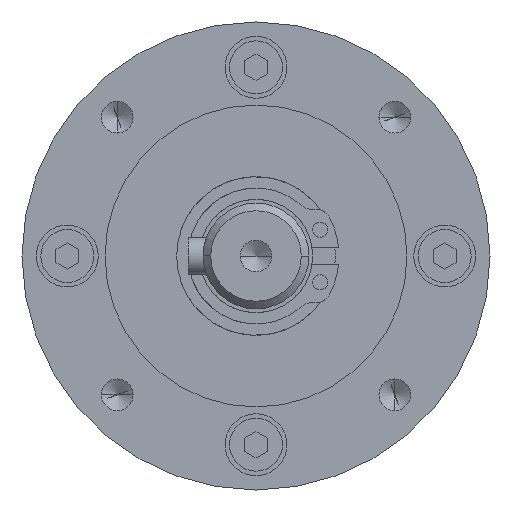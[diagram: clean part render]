
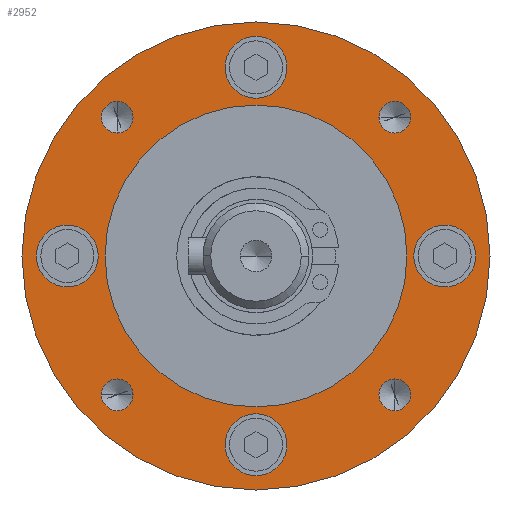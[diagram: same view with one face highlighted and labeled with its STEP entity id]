
A CAD part, left-side view. The second image highlights one B-rep face of the part: STEP entity #2952.
In plain terms, the highlighted planar face has unit normal (-1, 0, 0).
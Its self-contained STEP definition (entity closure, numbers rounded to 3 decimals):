
#282=CARTESIAN_POINT('',(-104.2,0.,0.));
#283=DIRECTION('',(1.,0.,0.));
#284=DIRECTION('',(0.,1.,0.));
#285=AXIS2_PLACEMENT_3D('',#282,#283,#284);
#290=CARTESIAN_POINT('',(-104.2,0.,0.));
#291=DIRECTION('',(1.,0.,0.));
#292=DIRECTION('',(0.,-1.,0.));
#293=AXIS2_PLACEMENT_3D('',#290,#291,#292);
#298=CARTESIAN_POINT('',(-104.2,0.,0.));
#299=DIRECTION('',(-1.,0.,0.));
#300=DIRECTION('',(0.,1.,0.));
#301=AXIS2_PLACEMENT_3D('',#298,#299,#300);
#306=CARTESIAN_POINT('',(-104.2,0.,0.));
#307=DIRECTION('',(-1.,0.,0.));
#308=DIRECTION('',(0.,-1.,0.));
#309=AXIS2_PLACEMENT_3D('',#306,#307,#308);
#314=CARTESIAN_POINT('',(-104.2,-18.385,18.385));
#315=DIRECTION('',(-1.,0.,0.));
#316=DIRECTION('',(0.,1.,0.));
#317=AXIS2_PLACEMENT_3D('',#314,#315,#316);
#322=CARTESIAN_POINT('',(-104.2,-18.385,18.385));
#323=DIRECTION('',(-1.,0.,0.));
#324=DIRECTION('',(0.,-1.,0.));
#325=AXIS2_PLACEMENT_3D('',#322,#323,#324);
#330=CARTESIAN_POINT('',(-104.2,18.385,18.385));
#331=DIRECTION('',(-1.,0.,0.));
#332=DIRECTION('',(0.,0.,-1.));
#333=AXIS2_PLACEMENT_3D('',#330,#331,#332);
#338=CARTESIAN_POINT('',(-104.2,18.385,18.385));
#339=DIRECTION('',(-1.,0.,0.));
#340=DIRECTION('',(0.,0.,1.));
#341=AXIS2_PLACEMENT_3D('',#338,#339,#340);
#346=CARTESIAN_POINT('',(-104.2,18.385,-18.385));
#347=DIRECTION('',(-1.,0.,0.));
#348=DIRECTION('',(0.,-1.,0.));
#349=AXIS2_PLACEMENT_3D('',#346,#347,#348);
#354=CARTESIAN_POINT('',(-104.2,18.385,-18.385));
#355=DIRECTION('',(-1.,0.,0.));
#356=DIRECTION('',(0.,1.,0.));
#357=AXIS2_PLACEMENT_3D('',#354,#355,#356);
#362=CARTESIAN_POINT('',(-104.2,-18.385,-18.385));
#363=DIRECTION('',(-1.,0.,0.));
#364=DIRECTION('',(0.,0.,1.));
#365=AXIS2_PLACEMENT_3D('',#362,#363,#364);
#370=CARTESIAN_POINT('',(-104.2,-18.385,-18.385));
#371=DIRECTION('',(-1.,0.,0.));
#372=DIRECTION('',(0.,0.,-1.));
#373=AXIS2_PLACEMENT_3D('',#370,#371,#372);
#378=CARTESIAN_POINT('',(-104.2,25.,0.));
#379=DIRECTION('',(-1.,0.,0.));
#380=DIRECTION('',(0.,0.,1.));
#381=AXIS2_PLACEMENT_3D('',#378,#379,#380);
#386=CARTESIAN_POINT('',(-104.2,25.,0.));
#387=DIRECTION('',(-1.,0.,0.));
#388=DIRECTION('',(0.,0.,-1.));
#389=AXIS2_PLACEMENT_3D('',#386,#387,#388);
#394=CARTESIAN_POINT('',(-104.2,0.,25.));
#395=DIRECTION('',(-1.,0.,0.));
#396=DIRECTION('',(0.,0.,1.));
#397=AXIS2_PLACEMENT_3D('',#394,#395,#396);
#402=CARTESIAN_POINT('',(-104.2,0.,25.));
#403=DIRECTION('',(-1.,0.,0.));
#404=DIRECTION('',(0.,0.,-1.));
#405=AXIS2_PLACEMENT_3D('',#402,#403,#404);
#410=CARTESIAN_POINT('',(-104.2,-25.,0.));
#411=DIRECTION('',(-1.,0.,0.));
#412=DIRECTION('',(0.,0.,1.));
#413=AXIS2_PLACEMENT_3D('',#410,#411,#412);
#418=CARTESIAN_POINT('',(-104.2,-25.,0.));
#419=DIRECTION('',(-1.,0.,0.));
#420=DIRECTION('',(0.,0.,-1.));
#421=AXIS2_PLACEMENT_3D('',#418,#419,#420);
#426=CARTESIAN_POINT('',(-104.2,0.,-25.));
#427=DIRECTION('',(-1.,0.,0.));
#428=DIRECTION('',(0.,0.,1.));
#429=AXIS2_PLACEMENT_3D('',#426,#427,#428);
#434=CARTESIAN_POINT('',(-104.2,0.,-25.));
#435=DIRECTION('',(-1.,0.,0.));
#436=DIRECTION('',(0.,0.,-1.));
#437=AXIS2_PLACEMENT_3D('',#434,#435,#436);
#2309=CARTESIAN_POINT('',(-104.2,-31.,0.));
#2310=VERTEX_POINT('',#2309);
#2311=CARTESIAN_POINT('',(-104.2,31.,0.));
#2312=VERTEX_POINT('',#2311);
#2329=CARTESIAN_POINT('',(-104.2,20.,0.));
#2330=CARTESIAN_POINT('',(-104.2,-20.,0.));
#2331=VERTEX_POINT('',#2329);
#2332=VERTEX_POINT('',#2330);
#2333=CARTESIAN_POINT('',(-104.2,-16.285,18.385));
#2334=CARTESIAN_POINT('',(-104.2,-20.485,18.385));
#2335=VERTEX_POINT('',#2333);
#2336=VERTEX_POINT('',#2334);
#2337=CARTESIAN_POINT('',(-104.2,18.385,16.285));
#2338=CARTESIAN_POINT('',(-104.2,18.385,20.485));
#2339=VERTEX_POINT('',#2337);
#2340=VERTEX_POINT('',#2338);
#2341=CARTESIAN_POINT('',(-104.2,16.285,-18.385));
#2342=CARTESIAN_POINT('',(-104.2,20.485,-18.385));
#2343=VERTEX_POINT('',#2341);
#2344=VERTEX_POINT('',#2342);
#2345=CARTESIAN_POINT('',(-104.2,-18.385,-16.285));
#2346=CARTESIAN_POINT('',(-104.2,-18.385,-20.485));
#2347=VERTEX_POINT('',#2345);
#2348=VERTEX_POINT('',#2346);
#2349=CARTESIAN_POINT('',(-104.2,25.,4.1));
#2350=CARTESIAN_POINT('',(-104.2,25.,-4.1));
#2351=VERTEX_POINT('',#2349);
#2352=VERTEX_POINT('',#2350);
#2353=CARTESIAN_POINT('',(-104.2,0.,29.1));
#2354=CARTESIAN_POINT('',(-104.2,0.,20.9));
#2355=VERTEX_POINT('',#2353);
#2356=VERTEX_POINT('',#2354);
#2357=CARTESIAN_POINT('',(-104.2,-25.,4.1));
#2358=CARTESIAN_POINT('',(-104.2,-25.,-4.1));
#2359=VERTEX_POINT('',#2357);
#2360=VERTEX_POINT('',#2358);
#2361=CARTESIAN_POINT('',(-104.2,0.,-20.9));
#2362=CARTESIAN_POINT('',(-104.2,0.,-29.1));
#2363=VERTEX_POINT('',#2361);
#2364=VERTEX_POINT('',#2362);
#2889=CARTESIAN_POINT('',(-104.2,0.,0.));
#2890=DIRECTION('',(-1.,0.,0.));
#2891=DIRECTION('',(0.,1.,0.));
#2892=AXIS2_PLACEMENT_3D('',#2889,#2890,#2891);
#2893=PLANE('',#2892);
#2894=ORIENTED_EDGE('',*,*,#2856,.T.);
#2895=ORIENTED_EDGE('',*,*,#2871,.T.);
#2896=EDGE_LOOP('',(#2894,#2895));
#2897=FACE_OUTER_BOUND('',#2896,.F.);
#2899=ORIENTED_EDGE('',*,*,#2898,.T.);
#2901=ORIENTED_EDGE('',*,*,#2900,.T.);
#2902=EDGE_LOOP('',(#2899,#2901));
#2903=FACE_BOUND('',#2902,.F.);
#2905=ORIENTED_EDGE('',*,*,#2904,.T.);
#2907=ORIENTED_EDGE('',*,*,#2906,.T.);
#2908=EDGE_LOOP('',(#2905,#2907));
#2909=FACE_BOUND('',#2908,.F.);
#2911=ORIENTED_EDGE('',*,*,#2910,.T.);
#2913=ORIENTED_EDGE('',*,*,#2912,.T.);
#2914=EDGE_LOOP('',(#2911,#2913));
#2915=FACE_BOUND('',#2914,.F.);
#2917=ORIENTED_EDGE('',*,*,#2916,.T.);
#2919=ORIENTED_EDGE('',*,*,#2918,.T.);
#2920=EDGE_LOOP('',(#2917,#2919));
#2921=FACE_BOUND('',#2920,.F.);
#2923=ORIENTED_EDGE('',*,*,#2922,.T.);
#2925=ORIENTED_EDGE('',*,*,#2924,.T.);
#2926=EDGE_LOOP('',(#2923,#2925));
#2927=FACE_BOUND('',#2926,.F.);
#2929=ORIENTED_EDGE('',*,*,#2928,.T.);
#2931=ORIENTED_EDGE('',*,*,#2930,.T.);
#2932=EDGE_LOOP('',(#2929,#2931));
#2933=FACE_BOUND('',#2932,.F.);
#2935=ORIENTED_EDGE('',*,*,#2934,.T.);
#2937=ORIENTED_EDGE('',*,*,#2936,.T.);
#2938=EDGE_LOOP('',(#2935,#2937));
#2939=FACE_BOUND('',#2938,.F.);
#2941=ORIENTED_EDGE('',*,*,#2940,.T.);
#2943=ORIENTED_EDGE('',*,*,#2942,.T.);
#2944=EDGE_LOOP('',(#2941,#2943));
#2945=FACE_BOUND('',#2944,.F.);
#2947=ORIENTED_EDGE('',*,*,#2946,.T.);
#2949=ORIENTED_EDGE('',*,*,#2948,.T.);
#2950=EDGE_LOOP('',(#2947,#2949));
#2951=FACE_BOUND('',#2950,.F.);
#2952=ADVANCED_FACE('',(#2897,#2903,#2909,#2915,#2921,#2927,#2933,#2939,#2945,
#2951),#2893,.T.);
#286=CIRCLE('',#285,31.);
#294=CIRCLE('',#293,31.);
#302=CIRCLE('',#301,20.);
#310=CIRCLE('',#309,20.);
#318=CIRCLE('',#317,2.1);
#326=CIRCLE('',#325,2.1);
#334=CIRCLE('',#333,2.1);
#342=CIRCLE('',#341,2.1);
#350=CIRCLE('',#349,2.1);
#358=CIRCLE('',#357,2.1);
#366=CIRCLE('',#365,2.1);
#374=CIRCLE('',#373,2.1);
#382=CIRCLE('',#381,4.1);
#390=CIRCLE('',#389,4.1);
#398=CIRCLE('',#397,4.1);
#406=CIRCLE('',#405,4.1);
#414=CIRCLE('',#413,4.1);
#422=CIRCLE('',#421,4.1);
#430=CIRCLE('',#429,4.1);
#438=CIRCLE('',#437,4.1);
#2856=EDGE_CURVE('',#2312,#2310,#286,.T.);
#2871=EDGE_CURVE('',#2310,#2312,#294,.T.);
#2898=EDGE_CURVE('',#2331,#2332,#302,.T.);
#2900=EDGE_CURVE('',#2332,#2331,#310,.T.);
#2904=EDGE_CURVE('',#2335,#2336,#318,.T.);
#2906=EDGE_CURVE('',#2336,#2335,#326,.T.);
#2910=EDGE_CURVE('',#2339,#2340,#334,.T.);
#2912=EDGE_CURVE('',#2340,#2339,#342,.T.);
#2916=EDGE_CURVE('',#2343,#2344,#350,.T.);
#2918=EDGE_CURVE('',#2344,#2343,#358,.T.);
#2922=EDGE_CURVE('',#2347,#2348,#366,.T.);
#2924=EDGE_CURVE('',#2348,#2347,#374,.T.);
#2928=EDGE_CURVE('',#2351,#2352,#382,.T.);
#2930=EDGE_CURVE('',#2352,#2351,#390,.T.);
#2934=EDGE_CURVE('',#2355,#2356,#398,.T.);
#2936=EDGE_CURVE('',#2356,#2355,#406,.T.);
#2940=EDGE_CURVE('',#2359,#2360,#414,.T.);
#2942=EDGE_CURVE('',#2360,#2359,#422,.T.);
#2946=EDGE_CURVE('',#2363,#2364,#430,.T.);
#2948=EDGE_CURVE('',#2364,#2363,#438,.T.);
